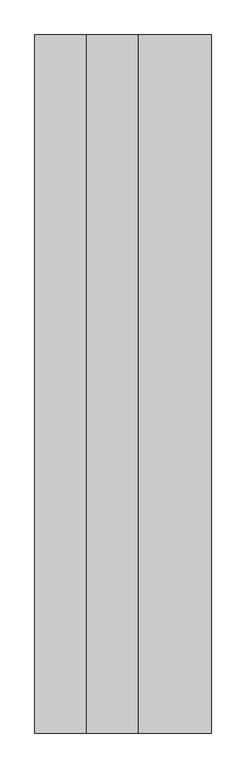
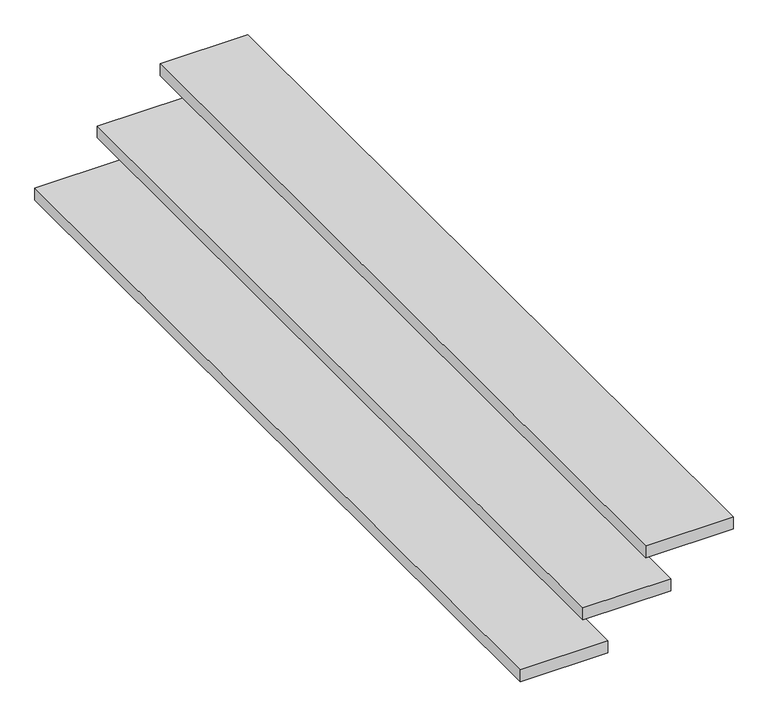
"""IFC4 building model written with IfcOpenShell, lengths in millimetres: stair flight geometry, 50 mm Tread 30 mm Nosing 15 mm Riser."""

from ifc_helpers import new_model, si_unit, frame, origin, place, context, project, spatial, polyline, outline, extrude, source, transform, mapped, element, save


def stair_flight_dba752a4(model_context):
    return source(origin(), model_context, "Body", "SweptSolid", [
        extrude(outline(polyline([(200.0, 3840.0), (200.0, 480.0), (-150.0, 480.0), (-150.0, 3840.0), (200.0, 3840.0)])), frame((0.0, 0.0, -575.0), z_axis=(0.0, 0.0, 1.0), x_axis=(1.0, 0.0, 0.0)), (0.0, 0.0, 1.0), 50.0),
        extrude(outline(polyline([(450.0, 3840.0), (450.0, 480.0), (100.0, 480.0), (100.0, 3840.0), (450.0, 3840.0)])), frame((0.0, 0.0, -400.0), z_axis=(0.0, 0.0, 1.0), x_axis=(1.0, 0.0, 0.0)), (0.0, 0.0, 1.0), 50.0),
        extrude(outline(polyline([(700.0, 3840.0), (700.0, 480.0), (350.0, 480.0), (350.0, 3840.0), (700.0, 3840.0)])), frame((0.0, 0.0, -225.0), z_axis=(0.0, 0.0, 1.0), x_axis=(1.0, 0.0, 0.0)), (0.0, 0.0, 1.0), 50.0),
    ])


if __name__ == "__main__":
    model = new_model("IFC4")
    model_context = context("Model", 3, world=origin())
    ifc_project = project(units=[si_unit("LENGTHUNIT", "METRE", prefix="MILLI")], contexts=[model_context])
    site = spatial("IfcSite", under=ifc_project)
    building = spatial("IfcBuilding", under=site)
    placement = place(None, origin())
    stair_flight_shape = stair_flight_dba752a4(model_context)
    element("IfcStairFlight", 1, ObjectType="50 mm Tread 30 mm Nosing 15 mm Riser", at=placement, inside=building, context=model_context, shape_type="MappedRepresentation", body=[
        mapped(stair_flight_shape, transform((0.0, 0.0, 0.0), x_axis=(1.0, 0.0, 0.0), y_axis=(0.0, 1.0, 0.0), z_axis=(0.0, 0.0, 1.0))),
    ])
    save(model, "model.ifc")
